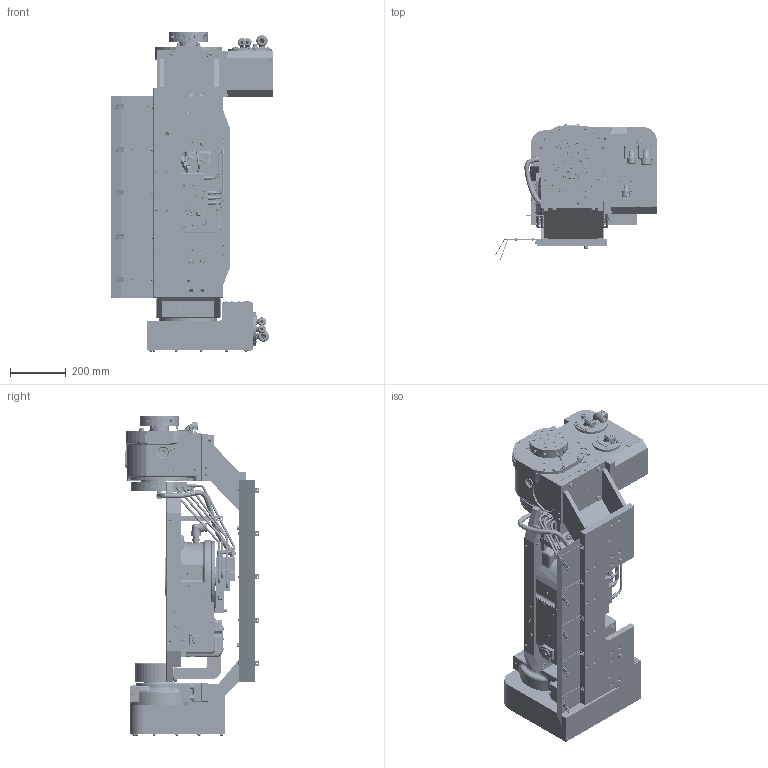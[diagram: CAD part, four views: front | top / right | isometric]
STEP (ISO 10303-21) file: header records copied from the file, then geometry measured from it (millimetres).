
FILE_DESCRIPTION (( 'STEP AP214' ), '1' );
FILE_NAME ('DHP-61E298623.STEP', '2025-03-14T00:26:00', ( '' ), ( '' ), 'SwSTEP 2.0', 'SolidWorks 2022', '' );
FILE_SCHEMA (( 'AUTOMOTIVE_DESIGN' ));
Length unit declared in the file: millimetre
Products named in the file (134): 61E864626^DNC27-LYRJ70RKT600構想(61E297444); 0263214500_平面外圧用_RKT500A00; 61E448373; 0263201400_平面内圧用; DNC27-LYRKT600A01-Dボデー(61E867589); 0150010600; 0283206014; DNC27-カバーA(61E861951); 008CZA0020; DNC27-RKT600-カサアゲダイ(61E118252); 61E294998_デフォルト; 61E445567; DNC85-61E867534; 61E495515; 61E430246; 0151010600; 0263204400_円筒用; 0158010005; DNC27-LYRKT600-カバー(61E865108); DNC27-LYRJ70RKT601構想(61E297444); 61E448855; 0030106016; 0030108045; 0150010800; 0030105012; 61E118162; 025BZA0001; 61E494515; 0263108000_平面外圧用; 044ENA0002_直接取付; DNC85-61E867535; 041DJA0011; 61E488169; 61E486542; 61E867533; 025AHA0001; DNC27-LYRKT600-フランジ(61E861900); 61E483959; 61E864630; 61E118160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
Assembly tree (508 placements, depth 4):
  61E864626^DNC27-LYRJ70RKT600構想(61E297444)
  DHP-61E298623
    DNC27-LYRKT600A01 Dガイケイ（61E866846）
      DNC27-LYRKT600A01-Dボデー(61E867589)
      61E867401
      61E118160
      61E118159
      61E119291
      61E118163
      61E118162
      61E119292
      DNC104-TSRC150-11-S-BODY
      61E295298
      DNC27-RKT500-Sシリンダ-TSRC140(61E295299)
      61M495028  x2
        61M419875
        0030106012
      61E448855
      61E430246  x2
      61E430247  x2
    61E867192_デフォルト
      DNC27-RKT600-カサアゲダイ(61E118252)
      0030110045  x4
      0080011020
      DNC27-LYRKT600-ブラケット(61E865107)  x5
      0030105012  x5
      0150010500  x5
      DNC27-LYRKT600-カバー(61E865108)
      008DAA0002  x10
      0150010400  x10
      61E448373  x2
      61E445567  x2
      008DEA0022  x2
      073GBA0008  x2
      073GBA0009  x5
    61E494515
      61E445844
      0158000005  x3
      008CZA0038  x3
      0263211200_平面内圧用
      0158010014
      044ENA0002_直接取付
      008CZA0020  x8
      0150010400  x8
      073CAA0025
      073CAA0026
    61E494516  x2
      073CAA0025
      61E494004
      008CZA0038
      0158000005
      0263209000_平面内圧用
      008CZA0020
      0150010400
    61E494515
      61E445844
      0158000005  x3
      008CZA0038  x3
      0263211200_平面内圧用
      0158010014
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Bounding box: 578.89 x 482.66 x 1142.24 mm (x, y, z)
Volume: 41236020.9 mm3; surface area: 6422910.9 mm2
Topology: 587 solids, 587 shells, 20015 faces, 51530 edges, 33601 vertices
Faces by surface type: plane 8246, cylinder 5782, cone 4477, bspline 788, torus 542, sphere 180
Entity records: 517356 total; most frequent: CARTESIAN_POINT 162461, ORIENTED_EDGE 63422, DIRECTION 61413, EDGE_CURVE 31711, AXIS2_PLACEMENT_3D 22907, VERTEX_POINT 21198, VECTOR 15599, LINE 15599
